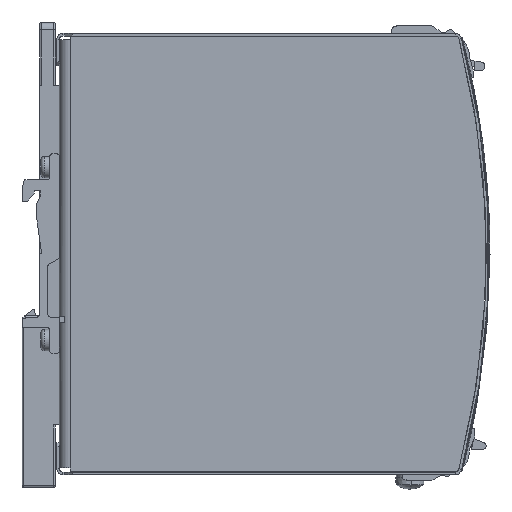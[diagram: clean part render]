
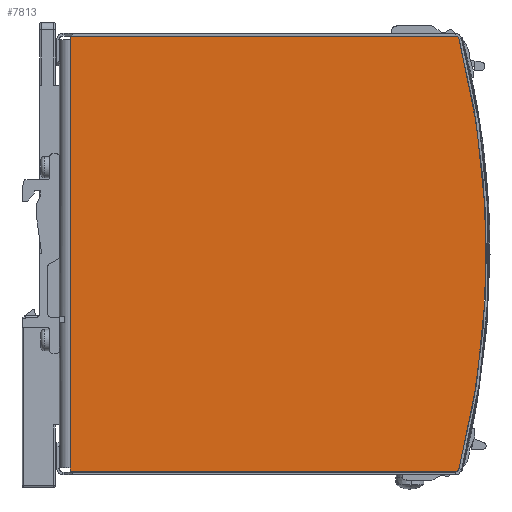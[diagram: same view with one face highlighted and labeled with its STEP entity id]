
A CAD part, left-side view. The second image highlights one B-rep face of the part: STEP entity #7813.
In plain terms, the highlighted planar face has unit normal (-1, 0, 0).
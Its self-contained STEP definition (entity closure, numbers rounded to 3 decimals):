
#537 = EDGE_CURVE ( 'NONE', #4617, #2021, #10407, .T. ) ;
#745 = CARTESIAN_POINT ( 'NONE',  ( -29.5, 112.275, 60.402 ) ) ;
#1714 = AXIS2_PLACEMENT_3D ( 'NONE', #34537, #34278, #50290 ) ;
#1991 = CARTESIAN_POINT ( 'NONE',  ( -29.5, 111.307, 61.15 ) ) ;
#2021 = VERTEX_POINT ( 'NONE', #19527 ) ;
#2028 = DIRECTION ( 'NONE',  ( 0., 1., 0. ) ) ;
#2694 = CARTESIAN_POINT ( 'NONE',  ( -29.5, 120.3, 61.15 ) ) ;
#3052 = CARTESIAN_POINT ( 'NONE',  ( -29.5, 0., 60.15 ) ) ;
#4378 = CARTESIAN_POINT ( 'NONE',  ( -29.5, 3.1, -60.15 ) ) ;
#4617 = VERTEX_POINT ( 'NONE', #23143 ) ;
#5572 = VERTEX_POINT ( 'NONE', #745 ) ;
#6188 = VERTEX_POINT ( 'NONE', #31769 ) ;
#6709 = LINE ( 'NONE', #38972, #11640 ) ;
#7032 = LINE ( 'NONE', #7551, #38820 ) ;
#7551 = CARTESIAN_POINT ( 'NONE',  ( -29.5, 3.1, -60.15 ) ) ;
#7573 = CARTESIAN_POINT ( 'NONE',  ( -29.5, 3.1, 61.15 ) ) ;
#7653 = VERTEX_POINT ( 'NONE', #32744 ) ;
#7813 = ADVANCED_FACE ( 'NONE', ( #38223 ), #18287, .F. ) ;
#8357 = EDGE_CURVE ( 'NONE', #4617, #51835, #32794, .T. ) ;
#9110 = AXIS2_PLACEMENT_3D ( 'NONE', #39369, #36984, #20470 ) ;
#9596 = VERTEX_POINT ( 'NONE', #43074 ) ;
#10001 = ORIENTED_EDGE ( 'NONE', *, *, #537, .T. ) ;
#10407 = LINE ( 'NONE', #3052, #21171 ) ;
#11157 = ORIENTED_EDGE ( 'NONE', *, *, #13258, .T. ) ;
#11541 = CARTESIAN_POINT ( 'NONE',  ( -29.5, 3.1, 0. ) ) ;
#11615 = ORIENTED_EDGE ( 'NONE', *, *, #37363, .T. ) ;
#11640 = VECTOR ( 'NONE', #18505, 1000. ) ;
#13178 = EDGE_CURVE ( 'NONE', #6188, #7653, #48398, .T. ) ;
#13258 = EDGE_CURVE ( 'NONE', #38448, #9596, #46992, .T. ) ;
#14267 = VERTEX_POINT ( 'NONE', #1991 ) ;
#14627 = CARTESIAN_POINT ( 'NONE',  ( -29.5, 3., -60.15 ) ) ;
#15126 = EDGE_CURVE ( 'NONE', #25615, #7653, #7032, .T. ) ;
#16457 = EDGE_CURVE ( 'NONE', #9596, #6188, #30639, .T. ) ;
#16644 = DIRECTION ( 'NONE',  ( 0., -1., 0. ) ) ;
#17509 = ORIENTED_EDGE ( 'NONE', *, *, #8357, .F. ) ;
#18287 = PLANE ( 'NONE',  #1714 ) ;
#18505 = DIRECTION ( 'NONE',  ( 0., 1., 0. ) ) ;
#19161 = CIRCLE ( 'NONE', #9110, 240. ) ;
#19527 = CARTESIAN_POINT ( 'NONE',  ( -29.5, 3.1, 60.15 ) ) ;
#20116 = DIRECTION ( 'NONE',  ( -1., 0., 0. ) ) ;
#20271 = DIRECTION ( 'NONE',  ( -1., 0., 0. ) ) ;
#20388 = ORIENTED_EDGE ( 'NONE', *, *, #45231, .F. ) ;
#20470 = DIRECTION ( 'NONE',  ( 0., -1., 0. ) ) ;
#20867 = ORIENTED_EDGE ( 'NONE', *, *, #51906, .T. ) ;
#21171 = VECTOR ( 'NONE', #2028, 1000. ) ;
#21439 = EDGE_CURVE ( 'NONE', #14267, #30886, #42578, .T. ) ;
#21451 = AXIS2_PLACEMENT_3D ( 'NONE', #44154, #20271, #27591 ) ;
#22932 = ORIENTED_EDGE ( 'NONE', *, *, #28080, .F. ) ;
#23143 = CARTESIAN_POINT ( 'NONE',  ( -29.5, 3., 60.15 ) ) ;
#23783 = DIRECTION ( 'NONE',  ( 0., 1., 0. ) ) ;
#24355 = AXIS2_PLACEMENT_3D ( 'NONE', #25517, #49676, #49923 ) ;
#25517 = CARTESIAN_POINT ( 'NONE',  ( -29.5, -120., 0. ) ) ;
#25615 = VERTEX_POINT ( 'NONE', #4378 ) ;
#27016 = EDGE_LOOP ( 'NONE', ( #20388, #37283, #20867, #11615, #11157, #43816, #32403, #40559, #22932, #17509, #10001 ) ) ;
#27191 = DIRECTION ( 'NONE',  ( 0., 0., -1. ) ) ;
#27591 = DIRECTION ( 'NONE',  ( 0., 1., 0. ) ) ;
#27749 = VECTOR ( 'NONE', #31765, 1000. ) ;
#28078 = CARTESIAN_POINT ( 'NONE',  ( -29.5, 3., 61.15 ) ) ;
#28080 = EDGE_CURVE ( 'NONE', #51835, #25615, #6709, .T. ) ;
#30184 = VECTOR ( 'NONE', #16644, 1000. ) ;
#30486 = CARTESIAN_POINT ( 'NONE',  ( -29.5, 120., 0. ) ) ;
#30639 = CIRCLE ( 'NONE', #21451, 1. ) ;
#30886 = VERTEX_POINT ( 'NONE', #7573 ) ;
#31765 = DIRECTION ( 'NONE',  ( 0., 0., -1. ) ) ;
#31769 = CARTESIAN_POINT ( 'NONE',  ( -29.5, 111.307, -61.15 ) ) ;
#32403 = ORIENTED_EDGE ( 'NONE', *, *, #13178, .T. ) ;
#32744 = CARTESIAN_POINT ( 'NONE',  ( -29.5, 3.1, -61.15 ) ) ;
#32794 = LINE ( 'NONE', #28078, #27749 ) ;
#34278 = DIRECTION ( 'NONE',  ( 1., 0., 0. ) ) ;
#34537 = CARTESIAN_POINT ( 'NONE',  ( -29.5, 120.3, 61.15 ) ) ;
#36833 = CARTESIAN_POINT ( 'NONE',  ( -29.5, 120.3, -61.15 ) ) ;
#36984 = DIRECTION ( 'NONE',  ( -1., 0., 0. ) ) ;
#37283 = ORIENTED_EDGE ( 'NONE', *, *, #21439, .F. ) ;
#37363 = EDGE_CURVE ( 'NONE', #5572, #38448, #19161, .T. ) ;
#38223 = FACE_OUTER_BOUND ( 'NONE', #27016, .T. ) ;
#38448 = VERTEX_POINT ( 'NONE', #30486 ) ;
#38820 = VECTOR ( 'NONE', #27191, 1000. ) ;
#38972 = CARTESIAN_POINT ( 'NONE',  ( -29.5, 0., -60.15 ) ) ;
#39184 = AXIS2_PLACEMENT_3D ( 'NONE', #40322, #20116, #23783 ) ;
#39369 = CARTESIAN_POINT ( 'NONE',  ( -29.5, -120., 0. ) ) ;
#40322 = CARTESIAN_POINT ( 'NONE',  ( -29.5, 111.307, 60.15 ) ) ;
#40559 = ORIENTED_EDGE ( 'NONE', *, *, #15126, .F. ) ;
#41702 = CIRCLE ( 'NONE', #39184, 1. ) ;
#42163 = VECTOR ( 'NONE', #43536, 1000. ) ;
#42578 = LINE ( 'NONE', #2694, #43926 ) ;
#43074 = CARTESIAN_POINT ( 'NONE',  ( -29.5, 112.275, -60.402 ) ) ;
#43536 = DIRECTION ( 'NONE',  ( 0., 0., -1. ) ) ;
#43816 = ORIENTED_EDGE ( 'NONE', *, *, #16457, .T. ) ;
#43926 = VECTOR ( 'NONE', #47565, 1000. ) ;
#44154 = CARTESIAN_POINT ( 'NONE',  ( -29.5, 111.307, -60.15 ) ) ;
#45231 = EDGE_CURVE ( 'NONE', #30886, #2021, #47473, .T. ) ;
#46992 = CIRCLE ( 'NONE', #24355, 240. ) ;
#47473 = LINE ( 'NONE', #11541, #42163 ) ;
#47565 = DIRECTION ( 'NONE',  ( 0., -1., 0. ) ) ;
#48398 = LINE ( 'NONE', #36833, #30184 ) ;
#49676 = DIRECTION ( 'NONE',  ( -1., 0., 0. ) ) ;
#49923 = DIRECTION ( 'NONE',  ( 0., -1., 0. ) ) ;
#50290 = DIRECTION ( 'NONE',  ( 0., 1., 0. ) ) ;
#51835 = VERTEX_POINT ( 'NONE', #14627 ) ;
#51906 = EDGE_CURVE ( 'NONE', #14267, #5572, #41702, .T. ) ;
